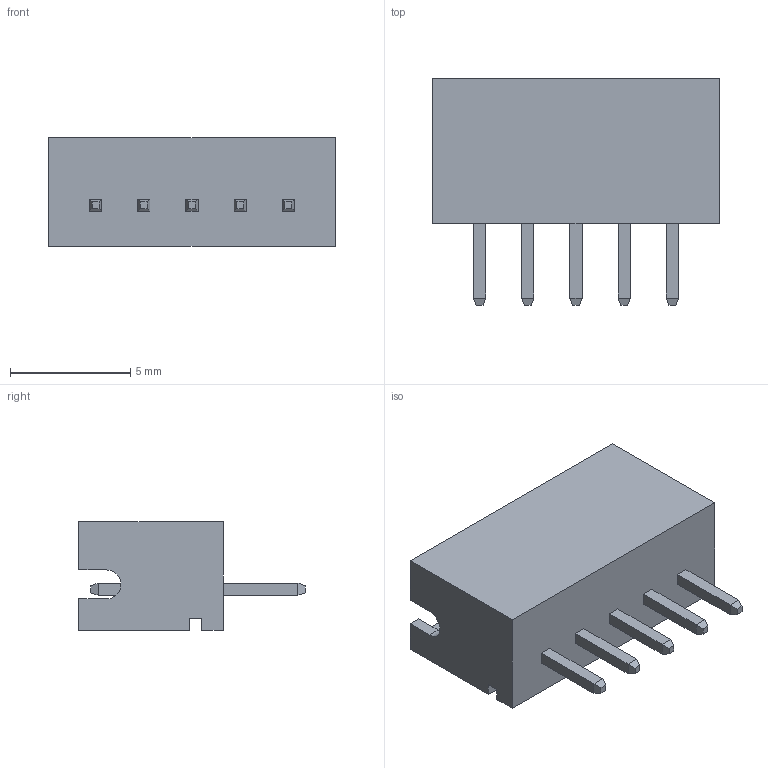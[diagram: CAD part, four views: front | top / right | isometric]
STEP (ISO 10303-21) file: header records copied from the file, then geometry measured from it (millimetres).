
FILE_DESCRIPTION (( 'STEP AP214' ), '1' );
FILE_NAME ('B5B-PH-K.STEP', '2011-05-17T11:29:19', ( 'vpeshkov' ), ( 'licard' ), 'SwSTEP 2.0', 'SolidWorks 2009', '' );
FILE_SCHEMA (( 'AUTOMOTIVE_DESIGN' ));
Length unit declared in the file: millimetre
Products named in the file (1): B5B-PH-K
Bounding box: 11.9 x 9.4 x 4.5 mm (x, y, z)
Volume: 160.3 mm3; surface area: 448.8 mm2
Topology: 1 solids, 1 shells, 116 faces, 272 edges, 168 vertices
Faces by surface type: plane 114, cylinder 2
Entity records: 4224 total; most frequent: CARTESIAN_POINT 557, ORIENTED_EDGE 544, DIRECTION 510, EDGE_CURVE 272, VECTOR 268, LINE 268, VERTEX_POINT 168, EDGE_LOOP 126
